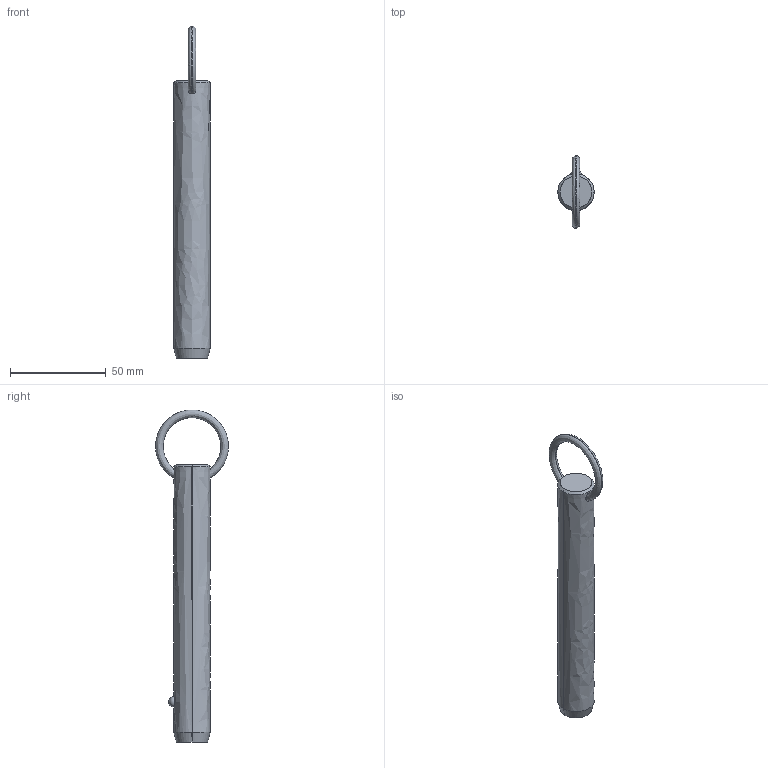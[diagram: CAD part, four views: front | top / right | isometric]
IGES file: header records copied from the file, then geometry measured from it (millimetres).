
Start section: SolidWorks IGES file using analytic representation for surfaces
Global section: file name: C:\Users\liam_\OneDrive\Documents\WORK\Work for WixRoyd\Job Files\J-00019 - Matt Davis CAD Checking\04. CAD Drawings\automotion20190605\P1250.2_v2\P1250.2_v2_20190729_IGES\P1250.075-440.igs; native system: SolidWorks 2017; preprocessor: SolidWorks 2017; author: liam_; date: 190729.235455; units: millimetre
Bounding box: 19 x 38.03 x 173.58 mm (x, y, z)
Surface area: 10187.9 mm2 (no closed solid volume)
Topology: 0 solids, 0 shells, 12 faces, 294 edges, 292 vertices
Faces by surface type: revolution 8, bspline 4
